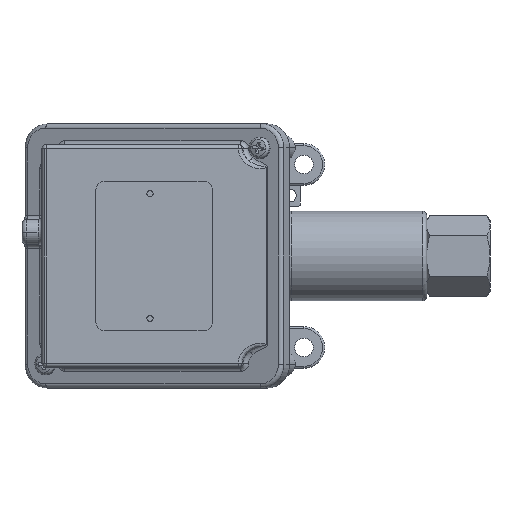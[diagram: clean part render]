
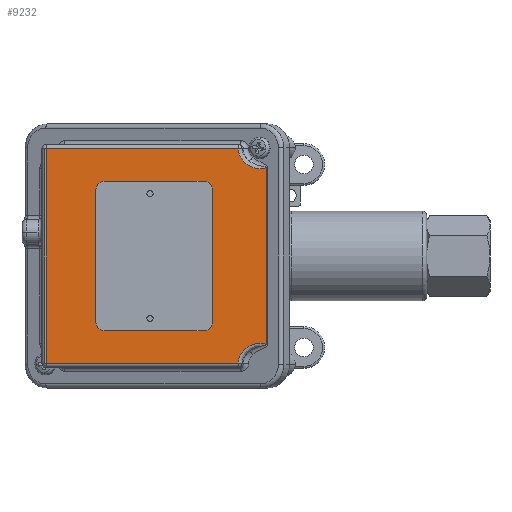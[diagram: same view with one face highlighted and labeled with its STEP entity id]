
A CAD part, left-side view. The second image highlights one B-rep face of the part: STEP entity #9232.
In plain terms, the highlighted planar face has unit normal (-1, 0.005, 0).
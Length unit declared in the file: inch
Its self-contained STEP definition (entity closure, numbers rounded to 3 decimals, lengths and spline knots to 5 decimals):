
#41 = VERTEX_POINT ( 'NONE', #10082 ) ;
#53 = CARTESIAN_POINT ( 'NONE',  ( -2.3055, 3.50088, -1.61 ) ) ;
#488 = ORIENTED_EDGE ( 'NONE', *, *, #16470, .T. ) ;
#552 = DIRECTION ( 'NONE',  ( -1., 0.005, 0. ) ) ;
#1169 = EDGE_CURVE ( 'NONE', #18322, #12748, #20186, .T. ) ;
#1452 = CARTESIAN_POINT ( 'NONE',  ( -2.32063, 0.60182, 1.39798 ) ) ;
#1926 = CARTESIAN_POINT ( 'NONE',  ( -2.32282, 0.18143, 1.6725 ) ) ;
#1980 = VERTEX_POINT ( 'NONE', #7764 ) ;
#2265 = VECTOR ( 'NONE', #12687, 39.37008 ) ;
#2495 = VERTEX_POINT ( 'NONE', #16784 ) ;
#2709 = EDGE_CURVE ( 'NONE', #12748, #18322, #16078, .T. ) ;
#2710 = VERTEX_POINT ( 'NONE', #24262 ) ;
#3684 = EDGE_CURVE ( 'NONE', #4350, #22253, #5339, .T. ) ;
#3842 = FACE_BOUND ( 'NONE', #16485, .T. ) ;
#4350 = VERTEX_POINT ( 'NONE', #53 ) ;
#4508 = EDGE_LOOP ( 'NONE', ( #10590, #25376, #488, #19933, #19931, #13772 ) ) ;
#4602 = DIRECTION ( 'NONE',  ( -1., 0.005, 0. ) ) ;
#5040 = CIRCLE ( 'NONE', #22662, 0.0465 ) ;
#5339 = LINE ( 'NONE', #22660, #2265 ) ;
#5382 = CARTESIAN_POINT ( 'NONE',  ( -2.32063, 0.60182, -1.39798 ) ) ;
#5510 = CARTESIAN_POINT ( 'NONE',  ( -2.32276, 0.19397, -1.32146 ) ) ;
#5721 = CARTESIAN_POINT ( 'NONE',  ( -2.32057, 0.61286, 1.61 ) ) ;
#6234 = DIRECTION ( 'NONE',  ( 0., 0., -1. ) ) ;
#6285 = DIRECTION ( 'NONE',  ( 0., 0., 1. ) ) ;
#6550 = LINE ( 'NONE', #19739, #15811 ) ;
#7006 = CARTESIAN_POINT ( 'NONE',  ( -2.31389, 1.8919, -0.938 ) ) ;
#7434 = CARTESIAN_POINT ( 'NONE',  ( -2.32057, 0.61286, -1.61 ) ) ;
#7764 = CARTESIAN_POINT ( 'NONE',  ( -2.32276, 0.19397, 1.32146 ) ) ;
#8023 = CARTESIAN_POINT ( 'NONE',  ( -2.3055, 3.50088, 1.6725 ) ) ;
#8192 = EDGE_CURVE ( 'NONE', #14650, #4350, #23826, .T. ) ;
#8296 = DIRECTION ( 'NONE',  ( -0.005, -1., 0. ) ) ;
#8315 = CARTESIAN_POINT ( 'NONE',  ( -2.31365, 1.9384, 0.937 ) ) ;
#8443 = DIRECTION ( 'NONE',  ( -1., 0.005, 0. ) ) ;
#9232 = ADVANCED_FACE ( 'NONE', ( #19524, #3842, #19385 ), #17709, .F. ) ;
#9258 = LINE ( 'NONE', #15215, #23282 ) ;
#9819 = DIRECTION ( 'NONE',  ( 1., -0.005, 0. ) ) ;
#10082 = CARTESIAN_POINT ( 'NONE',  ( -2.31341, 1.9849, 0.937 ) ) ;
#10238 = AXIS2_PLACEMENT_3D ( 'NONE', #8315, #8443, #20354 ) ;
#10362 =( BOUNDED_CURVE ( )  B_SPLINE_CURVE ( 3, ( #19298, #21107, #1452, #5721 ),
 .UNSPECIFIED., .F., .T. ) 
 B_SPLINE_CURVE_WITH_KNOTS ( ( 4, 4 ),
 ( 1.33072, 3.09357 ),
 .UNSPECIFIED. ) 
 CURVE ( )  GEOMETRIC_REPRESENTATION_ITEM ( )  RATIONAL_B_SPLINE_CURVE ( ( 1., 0.757, 0.757, 1. ) ) 
 REPRESENTATION_ITEM ( '' )  );
#10546 = DIRECTION ( 'NONE',  ( -0.005, -1., 0. ) ) ;
#10590 = ORIENTED_EDGE ( 'NONE', *, *, #8192, .T. ) ;
#11920 = ORIENTED_EDGE ( 'NONE', *, *, #1169, .F. ) ;
#12687 = DIRECTION ( 'NONE',  ( -0.005, -1., 0. ) ) ;
#12748 = VERTEX_POINT ( 'NONE', #15670 ) ;
#13069 = CIRCLE ( 'NONE', #10238, 0.0465 ) ;
#13115 = AXIS2_PLACEMENT_3D ( 'NONE', #1926, #9819, #25450 ) ;
#13233 = ORIENTED_EDGE ( 'NONE', *, *, #22622, .F. ) ;
#13772 = ORIENTED_EDGE ( 'NONE', *, *, #16306, .T. ) ;
#13874 = EDGE_CURVE ( 'NONE', #1980, #25409, #10362, .T. ) ;
#14184 = CARTESIAN_POINT ( 'NONE',  ( -2.31365, 1.9384, -0.938 ) ) ;
#14650 = VERTEX_POINT ( 'NONE', #20337 ) ;
#15215 = CARTESIAN_POINT ( 'NONE',  ( -2.32282, 0.18143, 1.61 ) ) ;
#15670 = CARTESIAN_POINT ( 'NONE',  ( -2.31341, 1.9849, -0.938 ) ) ;
#15811 = VECTOR ( 'NONE', #6285, 39.37008 ) ;
#15914 = VECTOR ( 'NONE', #6234, 39.37008 ) ;
#16078 = CIRCLE ( 'NONE', #21856, 0.0465 ) ;
#16213 = CARTESIAN_POINT ( 'NONE',  ( -2.31365, 1.9384, 0.937 ) ) ;
#16306 = EDGE_CURVE ( 'NONE', #25409, #14650, #9258, .T. ) ;
#16470 = EDGE_CURVE ( 'NONE', #22253, #2495, #25088, .T. ) ;
#16485 = EDGE_LOOP ( 'NONE', ( #11920, #24803 ) ) ;
#16784 = CARTESIAN_POINT ( 'NONE',  ( -2.32276, 0.19397, -1.32146 ) ) ;
#17082 = EDGE_CURVE ( 'NONE', #41, #2710, #13069, .T. ) ;
#17709 = PLANE ( 'NONE',  #13115 ) ;
#18090 = CARTESIAN_POINT ( 'NONE',  ( -2.31365, 1.9384, -0.938 ) ) ;
#18322 = VERTEX_POINT ( 'NONE', #7006 ) ;
#18708 = CARTESIAN_POINT ( 'NONE',  ( -2.32057, 0.61286, -1.61 ) ) ;
#19298 = CARTESIAN_POINT ( 'NONE',  ( -2.32276, 0.19397, 1.32146 ) ) ;
#19357 = AXIS2_PLACEMENT_3D ( 'NONE', #14184, #552, #8296 ) ;
#19385 = FACE_OUTER_BOUND ( 'NONE', #4508, .T. ) ;
#19472 = CARTESIAN_POINT ( 'NONE',  ( -2.32057, 0.61286, 1.61 ) ) ;
#19524 = FACE_BOUND ( 'NONE', #21061, .T. ) ;
#19739 = CARTESIAN_POINT ( 'NONE',  ( -2.32276, 0.19397, 1.6725 ) ) ;
#19931 = ORIENTED_EDGE ( 'NONE', *, *, #13874, .T. ) ;
#19933 = ORIENTED_EDGE ( 'NONE', *, *, #22166, .T. ) ;
#20186 = CIRCLE ( 'NONE', #19357, 0.0465 ) ;
#20337 = CARTESIAN_POINT ( 'NONE',  ( -2.3055, 3.50088, 1.61 ) ) ;
#20354 = DIRECTION ( 'NONE',  ( -0.005, -1., 0. ) ) ;
#20466 = DIRECTION ( 'NONE',  ( -0.005, -1., 0. ) ) ;
#21061 = EDGE_LOOP ( 'NONE', ( #13233, #25123 ) ) ;
#21107 = CARTESIAN_POINT ( 'NONE',  ( -2.32159, 0.41746, 1.27099 ) ) ;
#21856 = AXIS2_PLACEMENT_3D ( 'NONE', #18090, #4602, #10546 ) ;
#22166 = EDGE_CURVE ( 'NONE', #2495, #1980, #6550, .T. ) ;
#22253 = VERTEX_POINT ( 'NONE', #18708 ) ;
#22261 = DIRECTION ( 'NONE',  ( -1., 0.005, 0. ) ) ;
#22622 = EDGE_CURVE ( 'NONE', #2710, #41, #5040, .T. ) ;
#22660 = CARTESIAN_POINT ( 'NONE',  ( -2.32081, 0.56672, -1.61 ) ) ;
#22662 = AXIS2_PLACEMENT_3D ( 'NONE', #16213, #22261, #20466 ) ;
#22977 = CARTESIAN_POINT ( 'NONE',  ( -2.32159, 0.41746, -1.27099 ) ) ;
#23095 = DIRECTION ( 'NONE',  ( 0.005, 1., 0. ) ) ;
#23282 = VECTOR ( 'NONE', #23095, 39.37008 ) ;
#23826 = LINE ( 'NONE', #8023, #15914 ) ;
#24262 = CARTESIAN_POINT ( 'NONE',  ( -2.31389, 1.8919, 0.937 ) ) ;
#24803 = ORIENTED_EDGE ( 'NONE', *, *, #2709, .F. ) ;
#25088 =( BOUNDED_CURVE ( )  B_SPLINE_CURVE ( 3, ( #7434, #5382, #22977, #5510 ),
 .UNSPECIFIED., .F., .T. ) 
 B_SPLINE_CURVE_WITH_KNOTS ( ( 4, 4 ),
 ( 3.18961, 4.95247 ),
 .UNSPECIFIED. ) 
 CURVE ( )  GEOMETRIC_REPRESENTATION_ITEM ( )  RATIONAL_B_SPLINE_CURVE ( ( 1., 0.757, 0.757, 1. ) ) 
 REPRESENTATION_ITEM ( '' )  );
#25123 = ORIENTED_EDGE ( 'NONE', *, *, #17082, .F. ) ;
#25376 = ORIENTED_EDGE ( 'NONE', *, *, #3684, .T. ) ;
#25409 = VERTEX_POINT ( 'NONE', #19472 ) ;
#25450 = DIRECTION ( 'NONE',  ( 0.005, 1., 0. ) ) ;
